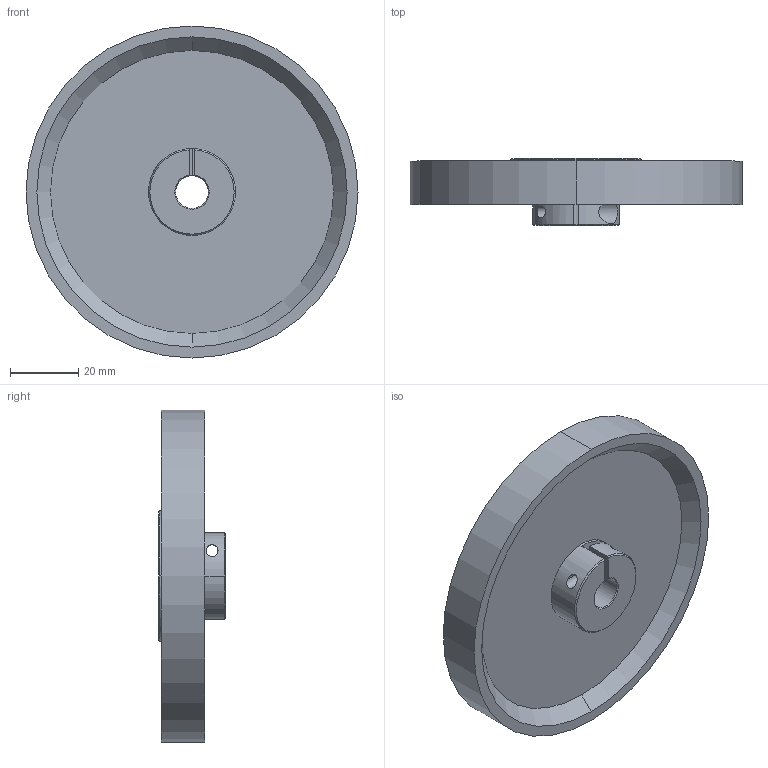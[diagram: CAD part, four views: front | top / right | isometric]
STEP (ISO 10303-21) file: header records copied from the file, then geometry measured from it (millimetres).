
FILE_DESCRIPTION (( 'STEP AP214' ), '1' );
FILE_NAME ('KMW-12.STEP', '2019-03-06T16:10:45', ( '' ), ( '' ), 'SwSTEP 2.0', 'SolidWorks 2019', '' );
FILE_SCHEMA (( 'AUTOMOTIVE_DESIGN' ));
Length unit declared in the file: inch
Products named in the file (1): KMW-12
Bounding box: 97.03 x 19.56 x 97.03 mm (x, y, z)
Surface area: 22954.4 mm2 (no closed solid volume)
Topology: 0 solids, 2 shells, 62 faces, 158 edges, 104 vertices
Faces by surface type: cylinder 24, cone 22, plane 16
Entity records: 2856 total; most frequent: CARTESIAN_POINT 445, DIRECTION 366, ORIENTED_EDGE 290, EDGE_CURVE 158, AXIS2_PLACEMENT_3D 153, VERTEX_POINT 104, CIRCLE 90, EDGE_LOOP 80
